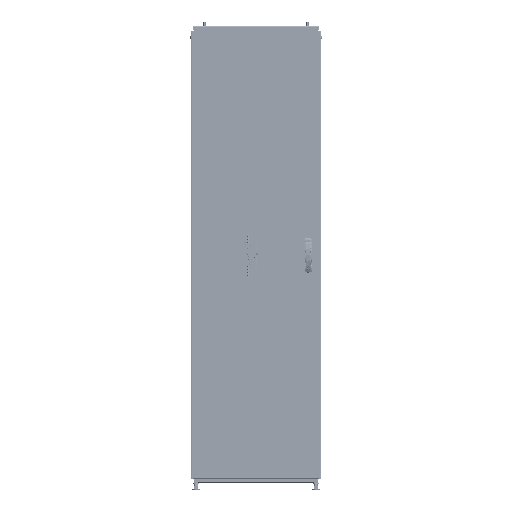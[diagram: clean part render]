
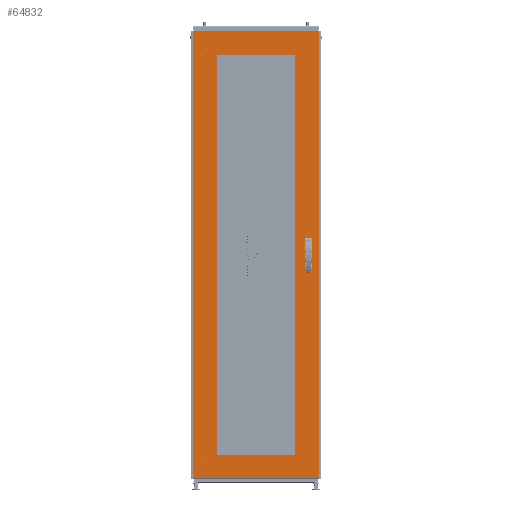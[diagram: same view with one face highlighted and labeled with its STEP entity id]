
A CAD part, top view. The second image highlights one B-rep face of the part: STEP entity #64832.
In plain terms, the highlighted planar face has unit normal (0, 0, 1).
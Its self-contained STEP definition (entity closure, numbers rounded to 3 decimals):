
#2182 = EDGE_CURVE ( 'NONE', #520745, #349254, #237759, .T. ) ;
#2450 = VECTOR ( 'NONE', #204106, 1000. ) ;
#2576 = LINE ( 'NONE', #79599, #311163 ) ;
#2680 = DIRECTION ( 'NONE',  ( -1., 0., 0. ) ) ;
#3067 = ORIENTED_EDGE ( 'NONE', *, *, #403253, .F. ) ;
#4377 = CARTESIAN_POINT ( 'NONE',  ( 230.187, 75.082, 1.397 ) ) ;
#14085 = EDGE_CURVE ( 'NONE', #501034, #437170, #54438, .T. ) ;
#25047 = CARTESIAN_POINT ( 'NONE',  ( 255.333, -24.917, 1.397 ) ) ;
#26239 = DIRECTION ( 'NONE',  ( 0., 1., 0. ) ) ;
#26327 = VECTOR ( 'NONE', #348375, 1000. ) ;
#29135 = VECTOR ( 'NONE', #371752, 1000. ) ;
#33353 = VERTEX_POINT ( 'NONE', #356293 ) ;
#47002 = FACE_BOUND ( 'NONE', #502870, .T. ) ;
#48971 = CARTESIAN_POINT ( 'NONE',  ( -184., 933., 1.397 ) ) ;
#49659 = VECTOR ( 'NONE', #26239, 1000. ) ;
#50202 = EDGE_CURVE ( 'NONE', #224427, #208575, #170249, .T. ) ;
#54438 = LINE ( 'NONE', #366878, #148816 ) ;
#57264 = EDGE_CURVE ( 'NONE', #242584, #520745, #411561, .T. ) ;
#57423 = EDGE_CURVE ( 'NONE', #453902, #480416, #291863, .T. ) ;
#59193 = CARTESIAN_POINT ( 'NONE',  ( 292.9, -1042.929, 1.397 ) ) ;
#64832 = ADVANCED_FACE ( 'NONE', ( #185805, #273794, #47002, #198430 ), #480301, .T. ) ;
#66654 = ORIENTED_EDGE ( 'NONE', *, *, #281677, .F. ) ;
#72846 = CARTESIAN_POINT ( 'NONE',  ( 294.321, 1041.508, 1.397 ) ) ;
#74839 = ORIENTED_EDGE ( 'NONE', *, *, #314106, .F. ) ;
#75100 = ORIENTED_EDGE ( 'NONE', *, *, #90961, .F. ) ;
#76378 = ORIENTED_EDGE ( 'NONE', *, *, #76679, .T. ) ;
#76679 = EDGE_CURVE ( 'NONE', #33353, #501034, #2576, .T. ) ;
#79599 = CARTESIAN_POINT ( 'NONE',  ( 184., 933., 1.397 ) ) ;
#82711 = VERTEX_POINT ( 'NONE', #153797 ) ;
#87284 = VECTOR ( 'NONE', #317395, 1000. ) ;
#89038 = ORIENTED_EDGE ( 'NONE', *, *, #374155, .T. ) ;
#90961 = EDGE_CURVE ( 'NONE', #82711, #387763, #325624, .T. ) ;
#99634 = DIRECTION ( 'NONE',  ( 0., 1., 0. ) ) ;
#103866 = ORIENTED_EDGE ( 'NONE', *, *, #50202, .F. ) ;
#104147 = VERTEX_POINT ( 'NONE', #293406 ) ;
#110466 = EDGE_CURVE ( 'NONE', #104147, #242584, #508185, .T. ) ;
#117883 = DIRECTION ( 'NONE',  ( 0., 0., 1. ) ) ;
#144589 = DIRECTION ( 'NONE',  ( 0., 1., 0. ) ) ;
#146194 = ORIENTED_EDGE ( 'NONE', *, *, #468364, .T. ) ;
#148816 = VECTOR ( 'NONE', #247241, 1000. ) ;
#149944 = VECTOR ( 'NONE', #170287, 1000. ) ;
#153797 = CARTESIAN_POINT ( 'NONE',  ( 255.333, 75.082, 1.397 ) ) ;
#155189 = ORIENTED_EDGE ( 'NONE', *, *, #57264, .F. ) ;
#162493 = ORIENTED_EDGE ( 'NONE', *, *, #332438, .T. ) ;
#168001 = VECTOR ( 'NONE', #2680, 1000. ) ;
#170249 = LINE ( 'NONE', #335966, #503888 ) ;
#170287 = DIRECTION ( 'NONE',  ( 0., 1., 0. ) ) ;
#178557 = LINE ( 'NONE', #236515, #2450 ) ;
#181810 = DIRECTION ( 'NONE',  ( 1., 0., 0. ) ) ;
#182179 = CARTESIAN_POINT ( 'NONE',  ( 255.333, 24.917, 1.397 ) ) ;
#185805 = FACE_BOUND ( 'NONE', #238982, .T. ) ;
#186048 = EDGE_LOOP ( 'NONE', ( #66654, #103866, #3067, #75100 ) ) ;
#193232 = CARTESIAN_POINT ( 'NONE',  ( 255.333, 24.917, 1.397 ) ) ;
#195071 = VERTEX_POINT ( 'NONE', #233993 ) ;
#196418 = LINE ( 'NONE', #307962, #26327 ) ;
#198430 = FACE_OUTER_BOUND ( 'NONE', #284893, .T. ) ;
#199683 = ORIENTED_EDGE ( 'NONE', *, *, #110466, .F. ) ;
#204106 = DIRECTION ( 'NONE',  ( 0., -1., 0. ) ) ;
#206392 = CARTESIAN_POINT ( 'NONE',  ( 230.187, -24.917, 1.397 ) ) ;
#208575 = VERTEX_POINT ( 'NONE', #182179 ) ;
#218826 = DIRECTION ( 'NONE',  ( -1., 0., 0. ) ) ;
#224427 = VERTEX_POINT ( 'NONE', #328979 ) ;
#228781 = VECTOR ( 'NONE', #242103, 1000. ) ;
#231123 = ORIENTED_EDGE ( 'NONE', *, *, #407517, .T. ) ;
#233993 = CARTESIAN_POINT ( 'NONE',  ( 292.9, 1041.508, 1.397 ) ) ;
#236515 = CARTESIAN_POINT ( 'NONE',  ( 230.187, 24.917, 1.397 ) ) ;
#237759 = LINE ( 'NONE', #25047, #332279 ) ;
#238982 = EDGE_LOOP ( 'NONE', ( #247695, #155189, #199683, #74839 ) ) ;
#242103 = DIRECTION ( 'NONE',  ( 1., 0., 0. ) ) ;
#242584 = VERTEX_POINT ( 'NONE', #433291 ) ;
#247241 = DIRECTION ( 'NONE',  ( -1., 0., 0. ) ) ;
#247364 = CARTESIAN_POINT ( 'NONE',  ( 255.333, -24.917, 1.397 ) ) ;
#247695 = ORIENTED_EDGE ( 'NONE', *, *, #2182, .F. ) ;
#252691 = CARTESIAN_POINT ( 'NONE',  ( -292.9, -1041.508, 1.397 ) ) ;
#260136 = VECTOR ( 'NONE', #181810, 1000. ) ;
#260954 = VECTOR ( 'NONE', #218826, 1000. ) ;
#273794 = FACE_BOUND ( 'NONE', #186048, .T. ) ;
#276348 = CARTESIAN_POINT ( 'NONE',  ( -295.897, -1044.505, 1.397 ) ) ;
#281677 = EDGE_CURVE ( 'NONE', #208575, #82711, #490374, .T. ) ;
#282991 = LINE ( 'NONE', #498000, #352137 ) ;
#284893 = EDGE_LOOP ( 'NONE', ( #231123, #89038, #521846, #393870 ) ) ;
#291863 = LINE ( 'NONE', #382538, #260136 ) ;
#293406 = CARTESIAN_POINT ( 'NONE',  ( 230.187, -24.917, 1.397 ) ) ;
#307962 = CARTESIAN_POINT ( 'NONE',  ( -292.9, 1042.929, 1.397 ) ) ;
#311163 = VECTOR ( 'NONE', #364614, 1000. ) ;
#314106 = EDGE_CURVE ( 'NONE', #349254, #104147, #380564, .T. ) ;
#317395 = DIRECTION ( 'NONE',  ( -1., 0., 0. ) ) ;
#325284 = CARTESIAN_POINT ( 'NONE',  ( 255.333, -75.082, 1.397 ) ) ;
#325624 = LINE ( 'NONE', #4377, #168001 ) ;
#328979 = CARTESIAN_POINT ( 'NONE',  ( 230.187, 24.917, 1.397 ) ) ;
#332279 = VECTOR ( 'NONE', #144589, 1000. ) ;
#332438 = EDGE_CURVE ( 'NONE', #413198, #33353, #282991, .T. ) ;
#332864 = DIRECTION ( 'NONE',  ( 1., 0., 0. ) ) ;
#334080 = CARTESIAN_POINT ( 'NONE',  ( 230.187, 75.082, 1.397 ) ) ;
#334461 = CARTESIAN_POINT ( 'NONE',  ( 184., -933., 1.397 ) ) ;
#335966 = CARTESIAN_POINT ( 'NONE',  ( 230.187, 24.917, 1.397 ) ) ;
#338548 = CARTESIAN_POINT ( 'NONE',  ( 230.187, -24.917, 1.397 ) ) ;
#348375 = DIRECTION ( 'NONE',  ( 0., -1., 0. ) ) ;
#349254 = VERTEX_POINT ( 'NONE', #247364 ) ;
#352137 = VECTOR ( 'NONE', #332864, 1000. ) ;
#356293 = CARTESIAN_POINT ( 'NONE',  ( 184., 933., 1.397 ) ) ;
#359976 = CARTESIAN_POINT ( 'NONE',  ( 230.187, -75.082, 1.397 ) ) ;
#361515 = VECTOR ( 'NONE', #99634, 1000. ) ;
#364614 = DIRECTION ( 'NONE',  ( 0., -1., 0. ) ) ;
#366107 = ORIENTED_EDGE ( 'NONE', *, *, #14085, .T. ) ;
#366878 = CARTESIAN_POINT ( 'NONE',  ( 184., -933., 1.397 ) ) ;
#371752 = DIRECTION ( 'NONE',  ( 0., -1., 0. ) ) ;
#374155 = EDGE_CURVE ( 'NONE', #442771, #453902, #196418, .T. ) ;
#380564 = LINE ( 'NONE', #338548, #260954 ) ;
#382538 = CARTESIAN_POINT ( 'NONE',  ( -294.321, -1041.508, 1.397 ) ) ;
#387763 = VERTEX_POINT ( 'NONE', #334080 ) ;
#390498 = AXIS2_PLACEMENT_3D ( 'NONE', #276348, #117883, #478609 ) ;
#393870 = ORIENTED_EDGE ( 'NONE', *, *, #474271, .T. ) ;
#397409 = CARTESIAN_POINT ( 'NONE',  ( -292.9, 1041.508, 1.397 ) ) ;
#403253 = EDGE_CURVE ( 'NONE', #387763, #224427, #178557, .T. ) ;
#407197 = CARTESIAN_POINT ( 'NONE',  ( -184., -933., 1.397 ) ) ;
#407517 = EDGE_CURVE ( 'NONE', #195071, #442771, #421151, .T. ) ;
#411561 = LINE ( 'NONE', #359976, #228781 ) ;
#413198 = VERTEX_POINT ( 'NONE', #480334 ) ;
#418596 = DIRECTION ( 'NONE',  ( 1., 0., 0. ) ) ;
#421151 = LINE ( 'NONE', #72846, #87284 ) ;
#433291 = CARTESIAN_POINT ( 'NONE',  ( 230.187, -75.082, 1.397 ) ) ;
#437170 = VERTEX_POINT ( 'NONE', #407197 ) ;
#442771 = VERTEX_POINT ( 'NONE', #397409 ) ;
#447504 = CARTESIAN_POINT ( 'NONE',  ( 292.9, -1041.508, 1.397 ) ) ;
#453902 = VERTEX_POINT ( 'NONE', #252691 ) ;
#468364 = EDGE_CURVE ( 'NONE', #437170, #413198, #508770, .T. ) ;
#474271 = EDGE_CURVE ( 'NONE', #480416, #195071, #518835, .T. ) ;
#478609 = DIRECTION ( 'NONE',  ( 1., 0., 0. ) ) ;
#480301 = PLANE ( 'NONE',  #390498 ) ;
#480334 = CARTESIAN_POINT ( 'NONE',  ( -184., 933., 1.397 ) ) ;
#480416 = VERTEX_POINT ( 'NONE', #447504 ) ;
#490374 = LINE ( 'NONE', #193232, #49659 ) ;
#498000 = CARTESIAN_POINT ( 'NONE',  ( 184., 933., 1.397 ) ) ;
#501034 = VERTEX_POINT ( 'NONE', #334461 ) ;
#502870 = EDGE_LOOP ( 'NONE', ( #146194, #162493, #76378, #366107 ) ) ;
#503888 = VECTOR ( 'NONE', #418596, 1000. ) ;
#508185 = LINE ( 'NONE', #206392, #29135 ) ;
#508770 = LINE ( 'NONE', #48971, #149944 ) ;
#518835 = LINE ( 'NONE', #59193, #361515 ) ;
#520745 = VERTEX_POINT ( 'NONE', #325284 ) ;
#521846 = ORIENTED_EDGE ( 'NONE', *, *, #57423, .T. ) ;
